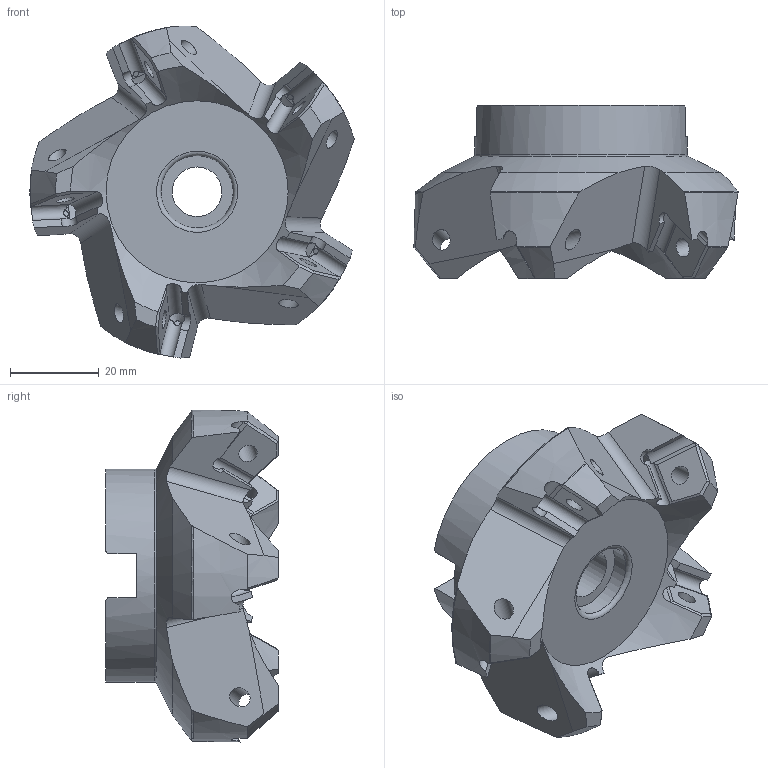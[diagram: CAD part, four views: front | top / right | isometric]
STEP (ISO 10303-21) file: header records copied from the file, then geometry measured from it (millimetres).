
FILE_DESCRIPTION(/* description */ (''),/* implementation_level */ '2;1');
FILE_NAME(/* name */ 'Z:\Проектный отдел\Влад\Фрезы\WMGC45-D63-22-4T.stp',/* time_stamp */ '2023-03-21T11:49:46+03:00',/* author */ ('инженер'),/* organization */ (''),/* preprocessor_version */ 'ST-DEVELOPER v18',/* originating_system */ 'Autodesk Inventor 2020',/* authorisation */ '');
FILE_SCHEMA (('AUTOMOTIVE_DESIGN { 1 0 10303 214 3 1 1 }'));
Length unit declared in the file: millimetre
Products named in the file (1): WMGC45-D63-22-4T
Bounding box: 73.09 x 39 x 74.85 mm (x, y, z)
Volume: 70771 mm3; surface area: 16278.5 mm2
Topology: 1 solids, 1 shells, 165 faces, 506 edges, 344 vertices
Faces by surface type: plane 80, cylinder 29, cone 24, bspline 20, torus 12
Full cylindrical faces by diameter (mm): 4.2 x5, 11.2 x1, 16.3 x1, 21.8 x1, 48 x1
Entity records: 7074 total; most frequent: CARTESIAN_POINT 2827, ORIENTED_EDGE 1012, DIRECTION 760, EDGE_CURVE 506, VERTEX_POINT 344, AXIS2_PLACEMENT_3D 317, EDGE_LOOP 178, FACE_OUTER_BOUND 165
